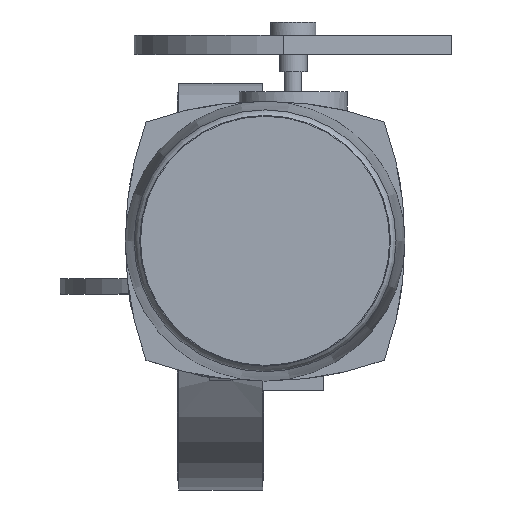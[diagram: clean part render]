
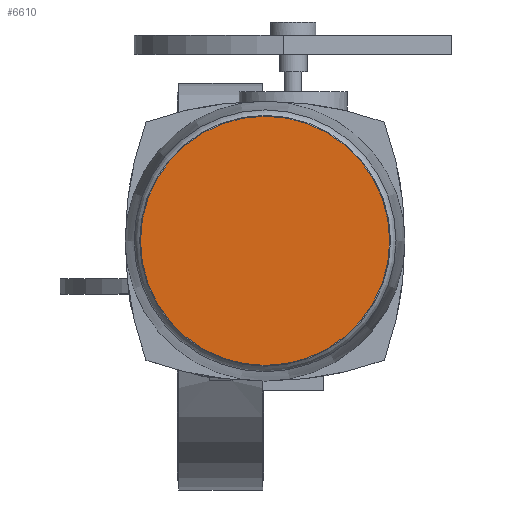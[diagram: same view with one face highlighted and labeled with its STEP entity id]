
A CAD part, top view. The second image highlights one B-rep face of the part: STEP entity #6610.
In plain terms, the highlighted planar face has unit normal (0, 0, 1).
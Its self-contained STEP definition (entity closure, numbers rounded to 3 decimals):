
#6610=ADVANCED_FACE('',(#12293),#12295,.T.);
#12293=FACE_BOUND('',#12294,.T.);
#12294=EDGE_LOOP('',(#16422));
#12295=PLANE('',#12296);
#12296=AXIS2_PLACEMENT_3D('',#12297,#12298,#12299);
#12297=CARTESIAN_POINT('',(35.,35.,573.));
#12298=DIRECTION('',(0.,0.,1.));
#12299=DIRECTION('',(0.,1.,0.));
#16422=ORIENTED_EDGE('',*,*,#18515,.F.);
#18515=EDGE_CURVE('',#21971,#21971,#21972,.F.);
#21971=VERTEX_POINT('',#31821);
#21972=CIRCLE('',#31822,98.019);
#31821=CARTESIAN_POINT('',(-63.019,35.,573.));
#31822=AXIS2_PLACEMENT_3D('',#31823,#31824,#31825);
#31823=CARTESIAN_POINT('',(35.,35.,573.));
#31824=DIRECTION('',(0.,0.,1.));
#31825=DIRECTION('',(-1.,0.,0.));
